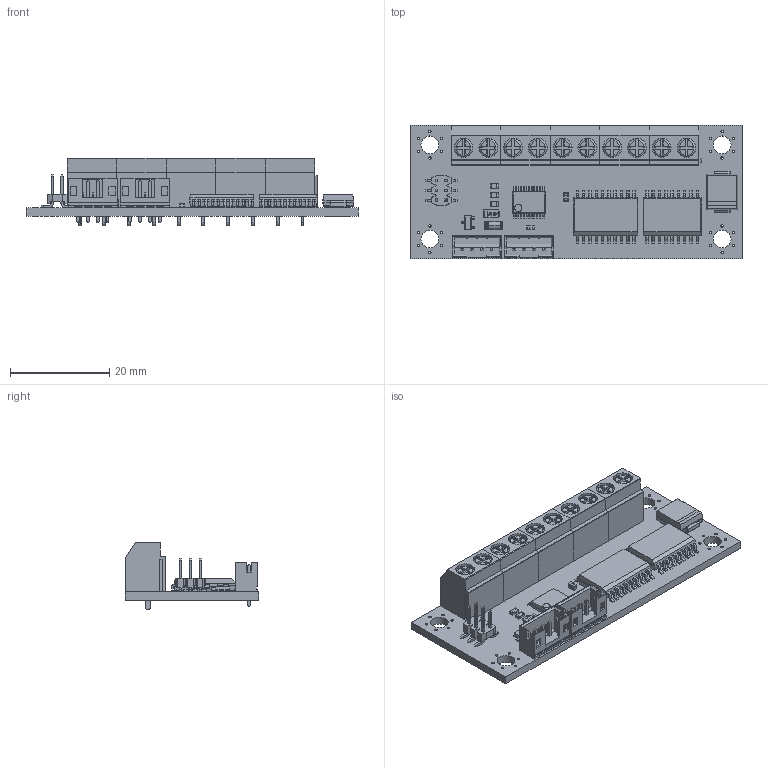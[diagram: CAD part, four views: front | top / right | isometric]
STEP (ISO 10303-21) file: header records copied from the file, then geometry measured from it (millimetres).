
FILE_DESCRIPTION(('Open CASCADE Model'),'2;1');
FILE_NAME('Open CASCADE Shape Model','2025-02-11T09:29:14',('Author'),( 'Open CASCADE'),'Open CASCADE STEP processor 6.8','Open CASCADE 6.8' ,'Unknown');
FILE_SCHEMA(('AUTOMOTIVE_DESIGN { 1 0 10303 214 1 1 1 1 }'));
Length unit declared in the file: millimetre
Products named in the file (33): PCB; Board; J2; CH71062M100-0P; 12P_6; SMT_PIN-PC; C1; GRM188; C2; D2; SS3H10; J1; 112504ST; J3; J4; DT-126VP-10P; DT-126VP-02P; Q1; FDN306P; R1; MCR03; R2; R3; U1; PCF8574APWR; U2; SN74HC240DWR; U3; ULN2803ADWR; C3; TCA1A106M8R; D1; PMLL4148L
Assembly tree (45 placements, depth 4):
  PCB
    Board
    J2
      CH71062M100-0P
        12P_6
        SMT_PIN-PC  x6
    C1
      GRM188
    C2
      GRM188
    D2
      SS3H10
    J1
      112504ST
    J3
      112504ST
    J4
      DT-126VP-10P
        DT-126VP-02P  x5
    Q1
      FDN306P
    R1
      MCR03
    R2
      MCR03
    R3
      MCR03
    U1
      PCF8574APWR
    U2
      SN74HC240DWR
    U3
      ULN2803ADWR
    C3
      TCA1A106M8R
    D1
      PMLL4148L
Bounding box: 67 x 27 x 13.6 mm (x, y, z)
Volume: 6735.6 mm3; surface area: 11901.1 mm2
Topology: 39 solids, 39 shells, 4226 faces, 10509 edges, 6392 vertices
Faces by surface type: plane 1986, cylinder 1590, torus 552, bspline 54, sphere 44
Full cylindrical faces by diameter (mm): 0.5 x24, 0.85 x8, 1.5 x10, 3.6 x4
Entity records: 110348 total; most frequent: CARTESIAN_POINT 16577, DIRECTION 16302, ORIENTED_EDGE 14840, EDGE_CURVE 7420, AXIS2_PLACEMENT_3D 5991, VERTEX_POINT 4458, LINE 4320, VECTOR 4320
